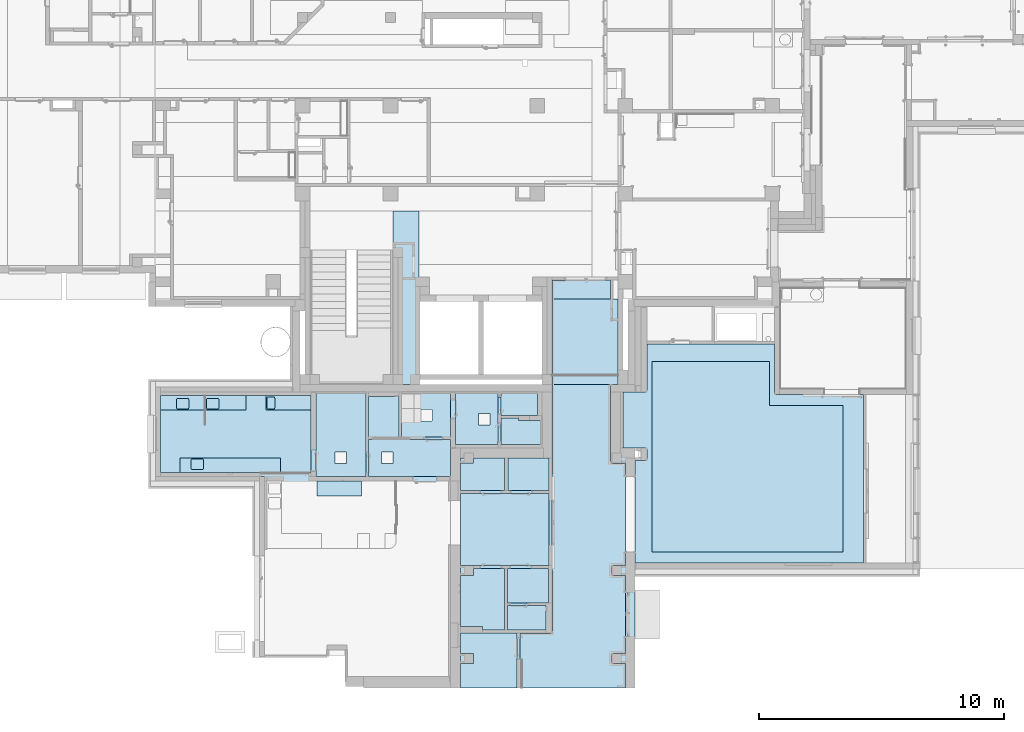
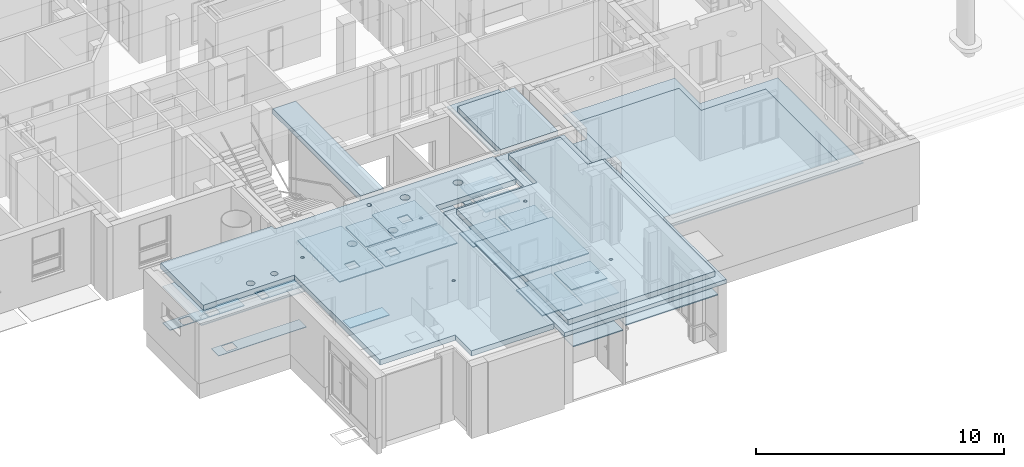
# One storey, part 8 of 140: 29 slabs, 16 openings.
"""IFC4 building model written with IfcOpenShell, lengths in metres."""

import ifcopenshell
import ifcopenshell.guid

model = None  # the IFC model being written
_history = None  # IfcOwnerHistory: only IFC2X3 demands one
_inside = {}  # id of a spatial element -> (the spatial element, [elements in it])
_under = {}  # id of a project, library or spatial element -> (it, [spatial elements below it])
_declared = {}  # id of a project -> (the project, [libraries it declares])
_typed = {}  # id of a type object -> (the type object, [elements of that type])
_made_of = {}  # id of a material, layer set ... -> (it, [elements and type objects made of it])


def new_model(schema):
    """Start an empty IFC model of exactly this schema.

    Asked for "IFC4X3", IfcOpenShell would pick the latest addendum, in which some entities
    have other attributes; the version numbers below select the first issue.
    IFC2X3 requires an IfcOwnerHistory on every rooted entity: one is made here for all.
    """
    global model, _history
    if schema == "IFC4X3":
        model = ifcopenshell.file(schema_version=(4, 3, 0, 0))
    else:
        model = ifcopenshell.file(schema=schema)
    _inside.clear()
    _under.clear()
    _declared.clear()
    _typed.clear()
    _made_of.clear()
    _history = None
    if model.schema == "IFC2X3":
        org = make("IfcOrganization", Name="unknown")
        user = make(
            "IfcPersonAndOrganization",
            ThePerson=make("IfcPerson", FamilyName="unknown"),
            TheOrganization=org,
        )
        app = make(
            "IfcApplication",
            ApplicationDeveloper=org,
            Version="unknown",
            ApplicationFullName="unknown",
            ApplicationIdentifier="unknown",
        )
        _history = make(
            "IfcOwnerHistory",
            OwningUser=user,
            OwningApplication=app,
            ChangeAction="ADDED",
            CreationDate=0,
        )
    return model


def make(cls, **values):
    """One entity of the class cls with the attributes given. An attribute that is None is left unset."""
    return model.create_entity(
        cls, **{name: value for name, value in values.items() if value is not None}
    )


def entity(cls, *values):
    """Any entity or typed value of the class cls, its attributes in the order of the schema. None: left unset."""
    e = model.create_entity(cls)
    for i, value in enumerate(values):
        if value is not None:
            e[i] = value
    return e


def rooted(cls, **values):
    """An entity with a GlobalId (a new one), such as an element, a storey or a relation."""
    return make(cls, GlobalId=ifcopenshell.guid.new(), OwnerHistory=_history, **values)


def si_unit(unit_type, name, prefix=None):
    """IfcSIUnit, for example si_unit("LENGTHUNIT", "METRE", prefix="MILLI")."""
    return make("IfcSIUnit", UnitType=unit_type, Prefix=prefix, Name=name)


def converted_unit(unit_type, name, factor, base, dimensions=None, offset=None):
    """IfcConversionBasedUnit, such as the inch: factor (a typed value) times the base unit."""
    return make(
        "IfcConversionBasedUnit"
        if offset is None
        else "IfcConversionBasedUnitWithOffset",
        ConversionOffset=offset,
        Dimensions=None
        if dimensions is None
        else entity("IfcDimensionalExponents", *dimensions),
        UnitType=unit_type,
        Name=name,
        ConversionFactor=make(
            "IfcMeasureWithUnit", ValueComponent=factor, UnitComponent=base
        ),
    )


def derived_unit(unit_type, elements):
    """IfcDerivedUnit: a product of units, each with its exponent."""
    return make(
        "IfcDerivedUnit",
        Elements=[
            make("IfcDerivedUnitElement", Unit=unit, Exponent=power)
            for unit, power in elements
        ],
        UnitType=unit_type,
    )


def assignment(units):
    """IfcUnitAssignment: the units of a project."""
    return None if units is None else make("IfcUnitAssignment", Units=units)


def point(xyz):
    """IfcCartesianPoint."""
    return None if xyz is None else make("IfcCartesianPoint", Coordinates=xyz)


def direction(xyz):
    """IfcDirection."""
    return None if xyz is None else make("IfcDirection", DirectionRatios=xyz)


def frame(location, z_axis=None, x_axis=None):
    """IfcAxis2Placement3D, a coordinate frame: its origin and axes. An axis left out is left unset."""
    return make(
        "IfcAxis2Placement3D",
        Location=point(location),
        Axis=direction(z_axis),
        RefDirection=direction(x_axis),
    )


def frame_2d(location, x_axis=None):
    """IfcAxis2Placement2D, a coordinate frame in the plane: its origin and x axis."""
    return make(
        "IfcAxis2Placement2D", Location=point(location), RefDirection=direction(x_axis)
    )


def origin():
    """The frame at (0, 0, 0) with its axes left unset."""
    return frame((0.0, 0.0, 0.0))


def origin_with_axes():
    """The frame at (0, 0, 0) with the z axis (0, 0, 1) and the x axis (1, 0, 0) written out."""
    return frame((0.0, 0.0, 0.0), z_axis=(0.0, 0.0, 1.0), x_axis=(1.0, 0.0, 0.0))


def place(relative_to, where):
    """IfcLocalPlacement: puts the frame where relative to a parent placement (None: the world)."""
    return make(
        "IfcLocalPlacement", PlacementRelTo=relative_to, RelativePlacement=where
    )


def context(
    kind, dimensions, precision=None, world=None, true_north=None, identifier=None
):
    """IfcGeometricRepresentationContext, for example the 3D "Model" context."""
    return make(
        "IfcGeometricRepresentationContext",
        ContextIdentifier=identifier,
        ContextType=kind,
        CoordinateSpaceDimension=dimensions,
        Precision=precision,
        WorldCoordinateSystem=world,
        TrueNorth=true_north,
    )


def subcontext(parent, identifier, kind, view, scale=None):
    """IfcGeometricRepresentationSubContext, for example "Body" below "Model"."""
    return make(
        "IfcGeometricRepresentationSubContext",
        ContextIdentifier=identifier,
        ContextType=kind,
        ParentContext=parent,
        TargetScale=scale,
        TargetView=view,
    )


def project(units=None, contexts=None):
    """IfcProject with its units and contexts."""
    return rooted(
        "IfcProject",
        Name="project",
        RepresentationContexts=contexts,
        UnitsInContext=assignment(units),
    )


def spatial(cls, under=None, at=None, **own):
    """A site, building, storey or space (cls), placed at a placement, below another one or the project."""
    s = rooted(cls, ObjectPlacement=at, **own)
    if under is not None:
        _under.setdefault(under.id(), (under, []))[1].append(s)
    return s


def polyline(points):
    """IfcPolyline through the points."""
    return make("IfcPolyline", Points=[point(p) for p in points])


def profile(cls, at=None, kind="AREA", **sizes):
    """A parametric profile (cls). Its sizes go by their IFC names, for example OverallWidth=200.0."""
    return make(cls, ProfileType=kind, Position=at, **sizes)


def rectangle(**sizes):
    """IfcRectangleProfileDef."""
    return profile("IfcRectangleProfileDef", **sizes)


def circle(**sizes):
    """IfcCircleProfileDef."""
    return profile("IfcCircleProfileDef", **sizes)


def outline(outer, holes=None, kind="AREA"):
    """IfcArbitraryClosedProfileDef: a profile drawn as a closed curve; with holes, ...WithVoids."""
    if holes is None:
        return make("IfcArbitraryClosedProfileDef", ProfileType=kind, OuterCurve=outer)
    return make(
        "IfcArbitraryProfileDefWithVoids",
        ProfileType=kind,
        OuterCurve=outer,
        InnerCurves=holes,
    )


def extrude(swept, where, along, depth):
    """IfcExtrudedAreaSolid: the profile swept, set in the frame where, extruded along a direction by depth."""
    return make(
        "IfcExtrudedAreaSolid",
        SweptArea=swept,
        Position=where,
        ExtrudedDirection=direction(along),
        Depth=depth,
    )


def shape(context_of_items, identifier, shape_type, items):
    """IfcShapeRepresentation: the items that make up one representation, for example the "Body"."""
    return make(
        "IfcShapeRepresentation",
        ContextOfItems=context_of_items,
        RepresentationIdentifier=identifier,
        RepresentationType=shape_type,
        Items=items,
    )


def material(Name=None, Category=None):
    """IfcMaterial."""
    return make("IfcMaterial", Name=Name, Category=Category)


def made_of(thing, what):
    """Note that an element or type object is made of a material, layer set ...; save() writes the relation."""
    if what is not None:
        _made_of.setdefault(what.id(), (what, []))[1].append(thing)
    return thing


def element(
    cls,
    number,
    at=None,
    inside=None,
    cuts=None,
    type_object=None,
    material=None,
    context=None,
    identifier="Body",
    shape_type=None,
    held_by="IfcProductDefinitionShape",
    body=None,
    shapes=None,
    **own,
):
    """One element of the class cls, such as IfcWall. Its Tag is "e" and its number.

    at: its placement. inside: the storey or other place that contains it. cuts: it is an
    opening in that element (IfcRelVoidsElement). A single representation is given by context,
    identifier, shape_type and body (its items); several are given by shapes. held_by: the class
    of the entity that holds the representations. save() writes the other relations.
    """
    e = rooted(cls, Tag="e%d" % number, ObjectPlacement=at, **own)
    if body is not None:
        shapes = [shape(context, identifier, shape_type, body)]
    if shapes is not None:
        e.Representation = make(held_by, Representations=shapes)
    if inside is not None:
        _inside.setdefault(inside.id(), (inside, []))[1].append(e)
    if cuts is not None:
        rooted(
            "IfcRelVoidsElement", RelatingBuildingElement=cuts, RelatedOpeningElement=e
        )
    if type_object is not None:
        _typed.setdefault(type_object.id(), (type_object, []))[1].append(e)
    return made_of(e, material)


def aggregate(whole, parts):
    """IfcRelAggregates: a whole, such as a stair, and the parts it consists of."""
    return rooted("IfcRelAggregates", RelatingObject=whole, RelatedObjects=parts)


def save(model, path):
    """Write the relations noted so far, then the file.

    IfcRelAggregates (storeys below a building ...), IfcRelContainedInSpatialStructure (elements
    in a storey), IfcRelDefinesByType, IfcRelAssociatesMaterial and IfcRelDeclares: one each for
    every whole, place, type object, material and project.
    """
    for whole, parts in _under.values():
        aggregate(whole, parts)
    for where, things in _inside.values():
        rooted(
            "IfcRelContainedInSpatialStructure",
            RelatedElements=things,
            RelatingStructure=where,
        )
    for kind, things in _typed.values():
        rooted("IfcRelDefinesByType", RelatedObjects=things, RelatingType=kind)
    for what, things in _made_of.values():
        rooted("IfcRelAssociatesMaterial", RelatedObjects=things, RelatingMaterial=what)
    for by, libraries in _declared.values():
        rooted("IfcRelDeclares", RelatingContext=by, RelatedDefinitions=libraries)
    model.write(path)


model = new_model("IFC4")

# Units and contexts
model_context = context("Model", 3, precision=1e-05, world=origin())
body_context = subcontext(model_context, "Body", "Model", "MODEL_VIEW")
ifc_project = project(units=[si_unit("LENGTHUNIT", "METRE"), si_unit("AREAUNIT", "SQUARE_METRE"), si_unit("VOLUMEUNIT", "CUBIC_METRE"), si_unit("MASSUNIT", "GRAM", prefix="KILO"), converted_unit("PLANEANGLEUNIT", "DEGREE", entity("IfcPlaneAngleMeasure", 0.0174532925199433), si_unit("PLANEANGLEUNIT", "RADIAN"), dimensions=[0, 0, 0, 0, 0, 0, 0]), derived_unit("THERMALTRANSMITTANCEUNIT", [(si_unit("POWERUNIT", "WATT"), 1), (si_unit("THERMODYNAMICTEMPERATUREUNIT", "KELVIN"), -1), (si_unit("LENGTHUNIT", "METRE"), -2)]), derived_unit("VOLUMETRICFLOWRATEUNIT", [(si_unit("LENGTHUNIT", "METRE"), 3), (converted_unit("TIMEUNIT", "hour", entity("IfcTimeMeasure", 3600.0), si_unit("TIMEUNIT", "SECOND"), dimensions=[0, 0, 1, 0, 0, 0, 0]), -1), (si_unit("LENGTHUNIT", "METRE"), -1)])], contexts=[model_context])

# Site, building, storey
site_placement = place(None, origin())
site = spatial("IfcSite", under=ifc_project, at=site_placement, Name="3. ASŘ", CompositionType="ELEMENT")
building_placement = place(site_placement, origin())
building = spatial("IfcBuilding", under=site, at=building_placement, Name="Pavilon C", CompositionType="ELEMENT")
storey_placement = place(building_placement, origin())
storey = spatial("IfcBuildingStorey", under=building, at=storey_placement, Name="Půdorys 1.NP", CompositionType="ELEMENT", Elevation=0.0)

# Slabs
ifc_material_1 = material(Name="VĚNEC")
slab_1_placement = place(storey_placement, frame((34.45, -4.19999999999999, 3.25)))
element("IfcSlab", 1, at=slab_1_placement, inside=storey, material=ifc_material_1, PredefinedType="FLOOR", context=body_context, shape_type="SweptSolid", body=[
    extrude(rectangle(XDim=7.09999999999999, YDim=1.07, at=frame_2d((-0.535, 3.55), x_axis=(0.0, 1.0))), frame((1.07, 0.0, 0.0), z_axis=(0.0, 0.0, 1.0), x_axis=(1.0, 0.0, 0.0)), (0.0, 0.0, 1.0), 0.25),
])
ifc_material_2 = material(Name="PZD")
slab_2_placement = place(storey_placement, frame((40.98, -4.2, 3.25)))
element("IfcSlab", 2, at=slab_2_placement, inside=storey, material=ifc_material_2, PredefinedType="FLOOR", context=body_context, shape_type="SweptSolid", body=[
    extrude(rectangle(XDim=3.5, YDim=2.67, at=frame_2d((1.335, -1.75), x_axis=(-2.07884503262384e-15, -1.0))), frame((7.27595761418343e-15, 3.5, 0.0), z_axis=(0.0, 0.0, 1.0), x_axis=(1.0, 0.0, 0.0)), (0.0, 0.0, 1.0), 0.25),
])

# Slab, openings
ifc_material_3 = material(Name="PZD")
slab_3_placement = place(storey_placement, frame((36.8, -16.6, 3.25)))
slab_3 = element("IfcSlab", 3, at=slab_3_placement, inside=storey, material=ifc_material_3, PredefinedType="FLOOR", context=body_context, shape_type="SweptSolid", body=[
    extrude(outline(polyline([(3.75, 12.1), (3.75, 9.8), (0.0, 9.8), (0.0, 0.0), (7.55, 0.0), (7.55, 9.8), (6.95, 9.8), (6.95, 12.1), (3.75, 12.1)])), origin_with_axes(), (0.0, 0.0, 1.0), 0.2),
])
opening_1_placement = place(slab_3_placement, frame((3.00007717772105, 8.42507717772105, 0.0)))
element("IfcOpeningElement", 4, at=opening_1_placement, cuts=slab_3, Name="Prostup deskou", ObjectType="Opening", context=body_context, shape_type="SweptSolid", body=[
    extrude(circle(Radius=0.0749999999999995, at=frame_2d((0.0, 9.09494701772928e-16), x_axis=(1.0, 0.0))), frame((0.0749228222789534, 0.0749228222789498, 0.0), z_axis=(0.0, 0.0, 1.0), x_axis=(1.0, 0.0, 0.0)), (0.0, 0.0, 1.0), 0.2),
])
opening_2_placement = place(slab_3_placement, frame((3.94916621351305, 3.15083191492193, 0.0)))
element("IfcOpeningElement", 5, at=opening_2_placement, cuts=slab_3, Name="Prostup deskou", ObjectType="Opening", context=body_context, shape_type="SweptSolid", body=[
    extrude(circle(Radius=0.0749999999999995, at=frame_2d((7.27595761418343e-15, -7.27595761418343e-15), x_axis=(1.0, 0.0))), frame((0.0749228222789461, 0.0749228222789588, 0.0), z_axis=(0.0, 0.0, 1.0), x_axis=(1.0, 0.0, 0.0)), (0.0, 0.0, 1.0), 0.2),
])
opening_3_placement = place(slab_3_placement, frame((3.00007717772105, 2.62583191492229, 0.0)))
element("IfcOpeningElement", 6, at=opening_3_placement, cuts=slab_3, Name="Prostup deskou", ObjectType="Opening", context=body_context, shape_type="SweptSolid", body=[
    extrude(circle(Radius=0.0749999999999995, at=frame_2d((0.0, -1.2732925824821e-14), x_axis=(1.0, 0.0))), frame((0.0749228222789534, 0.0749228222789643, 0.0), z_axis=(0.0, 0.0, 1.0), x_axis=(1.0, 0.0, 0.0)), (0.0, 0.0, 1.0), 0.2),
])

# Slabs
ifc_material_4 = material(Name="Kuchyňská deska")
slab_4_placement = place(storey_placement, frame((31.335158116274, -8.74999998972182, 0.82)))
element("IfcSlab", 7, at=slab_4_placement, inside=storey, material=ifc_material_4, PredefinedType="FLOOR", context=body_context, shape_type="SweptSolid", body=[
    extrude(rectangle(XDim=0.6, YDim=1.836, at=frame_2d((0.918, -0.3), x_axis=(0.0, -1.0))), frame((0.0, 0.6, 0.0), z_axis=(0.0, 0.0, 1.0), x_axis=(1.0, 0.0, 0.0)), (0.0, 0.0, 1.0), 0.03),
])
ifc_material_5 = material(Name="Kuchyňská deska")
slab_5_placement = place(storey_placement, frame((25.75, -7.80000000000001, 0.82)))
element("IfcSlab", 8, at=slab_5_placement, inside=storey, material=ifc_material_5, PredefinedType="FLOOR", context=body_context, shape_type="SweptSolid", body=[
    extrude(outline(polyline([(0.0, 0.599999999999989), (0.0, 0.0), (4.09999999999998, 0.0), (4.09999999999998, 0.599999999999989), (0.0, 0.599999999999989)]), holes=[polyline([(0.954240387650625, 0.508682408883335), (0.955000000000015, 0.499999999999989), (0.955000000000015, 0.169999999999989), (0.954240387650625, 0.161317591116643), (0.951984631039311, 0.152898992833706), (0.948301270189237, 0.144999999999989), (0.943302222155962, 0.137860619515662), (0.937139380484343, 0.13169777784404), (0.930000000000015, 0.126698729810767), (0.922101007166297, 0.123015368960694), (0.91368240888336, 0.120759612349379), (0.905000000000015, 0.119999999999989), (0.495000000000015, 0.119999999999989), (0.486317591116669, 0.120759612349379), (0.477898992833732, 0.123015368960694), (0.470000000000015, 0.126698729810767), (0.462860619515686, 0.13169777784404), (0.456697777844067, 0.137860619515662), (0.451698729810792, 0.144999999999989), (0.448015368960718, 0.152898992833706), (0.445759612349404, 0.161317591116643), (0.445000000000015, 0.169999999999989), (0.445000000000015, 0.499999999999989), (0.445759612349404, 0.508682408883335), (0.448015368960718, 0.517101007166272), (0.451698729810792, 0.524999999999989), (0.456697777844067, 0.532139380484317), (0.462860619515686, 0.538302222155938), (0.470000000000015, 0.543301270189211), (0.477898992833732, 0.546984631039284), (0.486317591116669, 0.5492403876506), (0.495000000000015, 0.549999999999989), (0.905000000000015, 0.549999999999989), (0.91368240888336, 0.5492403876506), (0.922101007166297, 0.546984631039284), (0.930000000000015, 0.543301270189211), (0.937139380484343, 0.538302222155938), (0.943302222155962, 0.532139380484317), (0.948301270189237, 0.524999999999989), (0.951984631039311, 0.517101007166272), (0.954240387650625, 0.508682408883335)])]), origin_with_axes(), (0.0, 0.0, 1.0), 0.03),
])
ifc_material_6 = material(Name="Kuchyňská deska")
slab_6_placement = place(storey_placement, frame((24.95, -5.24999999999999, 0.82)))
element("IfcSlab", 9, at=slab_6_placement, inside=storey, material=ifc_material_6, PredefinedType="FLOOR", context=body_context, shape_type="SweptSolid", body=[
    extrude(outline(polyline([(1.8, 0.599999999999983), (0.0, 0.600000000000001), (0.0, 0.0), (1.8, 0.0), (1.8, 0.599999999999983)]), holes=[polyline([(0.669999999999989, 0.473301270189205), (0.677898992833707, 0.476984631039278), (0.686317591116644, 0.479240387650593), (0.694999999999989, 0.479999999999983), (1.10499999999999, 0.479999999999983), (1.11368240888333, 0.479240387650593), (1.12210100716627, 0.476984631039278), (1.12999999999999, 0.473301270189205), (1.13713938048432, 0.468302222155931), (1.14330222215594, 0.46213938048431), (1.14830127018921, 0.454999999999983), (1.15198463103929, 0.447101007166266), (1.1542403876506, 0.438682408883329), (1.15499999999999, 0.429999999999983), (1.15499999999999, 0.0999999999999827), (1.1542403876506, 0.0913175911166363), (1.15198463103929, 0.0828989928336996), (1.14830127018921, 0.0749999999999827), (1.14330222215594, 0.0678606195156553), (1.13713938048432, 0.0616977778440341), (1.12999999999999, 0.0566987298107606), (1.12210100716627, 0.0530153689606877), (1.11368240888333, 0.0507596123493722), (1.10499999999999, 0.0499999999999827), (0.694999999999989, 0.0499999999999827), (0.686317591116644, 0.0507596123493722), (0.677898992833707, 0.0530153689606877), (0.669999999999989, 0.0566987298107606), (0.662860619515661, 0.0616977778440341), (0.656697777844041, 0.0678606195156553), (0.651698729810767, 0.0749999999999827), (0.648015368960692, 0.0828989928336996), (0.645759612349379, 0.0913175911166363), (0.644999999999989, 0.0999999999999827), (0.644999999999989, 0.429999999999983), (0.645759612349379, 0.438682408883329), (0.648015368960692, 0.447101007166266), (0.651698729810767, 0.454999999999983), (0.656697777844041, 0.46213938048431), (0.662860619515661, 0.468302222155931), (0.669999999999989, 0.473301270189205)])]), origin_with_axes(), (0.0, 0.0, 1.0), 0.03),
])
ifc_material_7 = material(Name="Kuchyňská deska")
slab_7_placement = place(storey_placement, frame((26.782, -5.24999999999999, 0.82)))
element("IfcSlab", 10, at=slab_7_placement, inside=storey, material=ifc_material_7, PredefinedType="FLOOR", context=body_context, shape_type="SweptSolid", body=[
    extrude(outline(polyline([(0.0, 0.0), (1.65, 4.72937244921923e-14), (1.65, 0.600000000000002), (0.0, 0.599999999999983), (0.0, 0.0)]), holes=[polyline([(0.543302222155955, 0.462139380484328), (0.548301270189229, 0.455000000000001), (0.551984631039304, 0.447101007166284), (0.554240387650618, 0.438682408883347), (0.555000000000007, 0.430000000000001), (0.555000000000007, 0.100000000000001), (0.554240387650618, 0.0913175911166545), (0.551984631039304, 0.0828989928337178), (0.548301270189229, 0.0750000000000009), (0.543302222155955, 0.0678606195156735), (0.537139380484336, 0.0616977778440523), (0.530000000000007, 0.0566987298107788), (0.522101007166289, 0.0530153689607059), (0.513682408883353, 0.0507596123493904), (0.505000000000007, 0.0500000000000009), (0.0950000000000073, 0.0500000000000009), (0.0863175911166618, 0.0507596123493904), (0.0778989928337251, 0.0530153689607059), (0.0700000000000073, 0.0566987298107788), (0.062860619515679, 0.0616977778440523), (0.0566977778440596, 0.0678606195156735), (0.0516987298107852, 0.0750000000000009), (0.0480153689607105, 0.0828989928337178), (0.0457596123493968, 0.0913175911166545), (0.0450000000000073, 0.100000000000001), (0.0450000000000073, 0.430000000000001), (0.0457596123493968, 0.438682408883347), (0.0480153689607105, 0.447101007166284), (0.0516987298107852, 0.455000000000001), (0.0566977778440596, 0.462139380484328), (0.062860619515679, 0.46830222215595), (0.0700000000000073, 0.473301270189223), (0.0778989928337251, 0.476984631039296), (0.0863175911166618, 0.479240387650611), (0.0950000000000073, 0.480000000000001), (0.505000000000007, 0.480000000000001), (0.513682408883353, 0.479240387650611), (0.522101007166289, 0.476984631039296), (0.530000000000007, 0.473301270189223), (0.537139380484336, 0.46830222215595), (0.543302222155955, 0.462139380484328)])]), origin_with_axes(), (0.0, 0.0, 1.0), 0.03),
])
ifc_material_8 = material(Name="Kuchyňská deska")
slab_8_placement = place(storey_placement, frame((29.25, -5.25000000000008, 0.82)))
element("IfcSlab", 11, at=slab_8_placement, inside=storey, material=ifc_material_8, PredefinedType="FLOOR", context=body_context, shape_type="SweptSolid", body=[
    extrude(outline(polyline([(0.0, 0.6), (0.0, 0.0), (1.85, 0.0), (1.85, 0.6), (0.0, 0.6)]), holes=[polyline([(0.0484999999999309, 0.487709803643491), (0.0489236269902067, 0.495531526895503), (0.0501840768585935, 0.503160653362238), (0.0522503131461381, 0.510409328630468), (0.0550714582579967, 0.517099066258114), (0.0585780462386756, 0.523065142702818), (0.0626837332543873, 0.528160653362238), (0.0672874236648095, 0.532260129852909), (0.0722757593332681, 0.535262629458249), (0.0775259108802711, 0.537094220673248), (0.0829086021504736, 0.537709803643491), (0.334091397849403, 0.537709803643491), (0.340066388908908, 0.536950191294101), (0.345859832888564, 0.534694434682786), (0.35129569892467, 0.531011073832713), (0.356208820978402, 0.52601202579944), (0.360449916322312, 0.519849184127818), (0.363890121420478, 0.512709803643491), (0.366424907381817, 0.504810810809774), (0.367977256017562, 0.496392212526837), (0.368499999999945, 0.487709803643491), (0.368499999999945, 0.102709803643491), (0.367977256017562, 0.0940273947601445), (0.366424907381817, 0.0856087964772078), (0.363890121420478, 0.0777098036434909), (0.360449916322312, 0.0705704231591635), (0.356208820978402, 0.0644075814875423), (0.35129569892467, 0.0594085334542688), (0.345859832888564, 0.0557251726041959), (0.340066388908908, 0.0534694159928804), (0.334091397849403, 0.0527098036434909), (0.0829086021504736, 0.0527098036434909), (0.0769336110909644, 0.0534694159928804), (0.071140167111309, 0.0557251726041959), (0.0657043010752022, 0.0594085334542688), (0.0607911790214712, 0.0644075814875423), (0.0565500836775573, 0.0705704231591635), (0.0531098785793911, 0.0777098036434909), (0.0505750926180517, 0.0856087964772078), (0.0490227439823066, 0.0940273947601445), (0.0484999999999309, 0.102709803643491), (0.0484999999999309, 0.487709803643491)])]), origin_with_axes(), (0.0, 0.0, 1.0), 0.03),
])

# Slab, openings
ifc_material_9 = material(Name="PIR")
slab_9_placement = place(storey_placement, frame((24.95, -16.145, 3.45)))
slab_9 = element("IfcSlab", 12, at=slab_9_placement, inside=storey, material=ifc_material_9, PredefinedType="FLOOR", context=body_context, shape_type="SweptSolid", body=[
    extrude(outline(polyline([(0.0, 11.645), (0.0, 8.19500000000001), (4.25, 8.19500000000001), (4.25, 1.30000000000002), (7.77, 1.30000000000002), (7.77, 0.0), (11.63, 5.45696821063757e-15), (11.63, 9.56500000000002), (15.38, 9.56500000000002), (15.38, 11.425), (5.18, 11.425), (5.18, 11.645), (0.0, 11.645)])), origin_with_axes(), (0.0, 0.0, 1.0), 0.26),
])
opening_4_placement = place(slab_9_placement, frame((7.17520580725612, 8.74520580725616, 0.0)))
element("IfcOpeningElement", 13, at=opening_4_placement, cuts=slab_9, Name="Prostup deskou", ObjectType="Opening", context=body_context, shape_type="SweptSolid", body=[
    extrude(circle(Radius=0.2, at=frame_2d((7.27595761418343e-15, 9.09494701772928e-16), x_axis=(1.0, 0.0))), frame((0.199794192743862, 0.199794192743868, 0.0), z_axis=(0.0, 0.0, 1.0), x_axis=(1.0, 0.0, 0.0)), (0.0, 0.0, 1.0), 0.26),
])
opening_5_placement = place(slab_9_placement, frame((9.07520580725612, 8.74520580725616, 0.0)))
element("IfcOpeningElement", 14, at=opening_5_placement, cuts=slab_9, Name="Prostup deskou", ObjectType="Opening", context=body_context, shape_type="SweptSolid", body=[
    extrude(circle(Radius=0.2, at=frame_2d((0.0, 3.63797880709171e-15), x_axis=(1.0, 0.0))), frame((0.199794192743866, 0.199794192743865, 0.0), z_axis=(0.0, 0.0, 1.0), x_axis=(1.0, 0.0, 0.0)), (0.0, 0.0, 1.0), 0.26),
])
opening_6_placement = place(slab_9_placement, frame((10.6502058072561, 10.4952058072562, 0.0)))
element("IfcOpeningElement", 15, at=opening_6_placement, cuts=slab_9, Name="Prostup deskou", ObjectType="Opening", context=body_context, shape_type="SweptSolid", body=[
    extrude(circle(Radius=0.2, at=frame_2d((0.0, 2.72848410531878e-15), x_axis=(1.0, 0.0))), frame((0.199794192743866, 0.199794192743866, 0.0), z_axis=(0.0, 0.0, 1.0), x_axis=(1.0, 0.0, 0.0)), (0.0, 0.0, 1.0), 0.26),
])
opening_7_placement = place(slab_9_placement, frame((13.025205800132, 10.3327058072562, 0.0)))
element("IfcOpeningElement", 16, at=opening_7_placement, cuts=slab_9, Name="Prostup deskou", ObjectType="Opening", context=body_context, shape_type="SweptSolid", body=[
    extrude(circle(Radius=0.2, at=frame_2d((0.0, -3.63797880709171e-15), x_axis=(1.0, 0.0))), frame((0.199794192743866, 0.199794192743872, 0.0), z_axis=(0.0, 0.0, 1.0), x_axis=(1.0, 0.0, 0.0)), (0.0, 0.0, 1.0), 0.26),
])
opening_8_placement = place(slab_9_placement, frame((10.605077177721, 9.04007540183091, 0.0)))
element("IfcOpeningElement", 17, at=opening_8_placement, cuts=slab_9, Name="Prostup deskou", ObjectType="Opening", context=body_context, shape_type="SweptSolid", body=[
    extrude(circle(Radius=0.0749999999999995, at=frame_2d((1.45519152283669e-14, -4.54747350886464e-15), x_axis=(1.0, 0.0))), frame((0.0749228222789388, 0.0749228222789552, 0.0), z_axis=(0.0, 0.0, 1.0), x_axis=(1.0, 0.0, 0.0)), (0.0, 0.0, 1.0), 0.26),
])
opening_9_placement = place(slab_9_placement, frame((5.08227275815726, 9.04007540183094, 0.0)))
element("IfcOpeningElement", 18, at=opening_9_placement, cuts=slab_9, Name="Prostup deskou", ObjectType="Opening", context=body_context, shape_type="SweptSolid", body=[
    extrude(circle(Radius=0.0749999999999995, at=frame_2d((1.09139364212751e-14, 2.72848410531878e-15), x_axis=(1.0, 0.0))), frame((0.0749228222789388, 0.0749228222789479, 0.0), z_axis=(0.0, 0.0, 1.0), x_axis=(1.0, 0.0, 0.0)), (0.0, 0.0, 1.0), 0.26),
])
opening_10_placement = place(slab_9_placement, frame((9.55126002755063, 4.57108813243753, 0.0)))
element("IfcOpeningElement", 19, at=opening_10_placement, cuts=slab_9, Name="Prostup deskou", ObjectType="Opening", context=body_context, shape_type="SweptSolid", body=[
    extrude(circle(Radius=0.0749999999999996, at=frame_2d((-1.45519152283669e-14, -3.63797880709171e-15), x_axis=(1.0, 0.0))), frame((0.0749228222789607, 0.0749228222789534, 0.0), z_axis=(0.0, 0.0, 1.0), x_axis=(1.0, 0.0, 0.0)), (0.0, 0.0, 1.0), 0.26),
])
opening_11_placement = place(slab_9_placement, frame((9.23502148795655, 10.8651029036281, 4.54747350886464e-16)))
element("IfcOpeningElement", 20, at=opening_11_placement, cuts=slab_9, Name="Prostup deskou", ObjectType="Opening", context=body_context, shape_type="SweptSolid", body=[
    extrude(circle(Radius=0.0999999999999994, at=frame_2d((7.27595761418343e-15, 1.81898940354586e-15), x_axis=(1.0, 0.0))), frame((0.0998970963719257, 0.099897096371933, -4.54747350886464e-16), z_axis=(0.0, 0.0, 1.0), x_axis=(1.0, 0.0, 0.0)), (0.0, 0.0, 1.0), 0.26),
])
opening_12_placement = place(slab_9_placement, frame((2.2593185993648, 8.41018008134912, 4.54747350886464e-16)))
element("IfcOpeningElement", 21, at=opening_12_placement, cuts=slab_9, Name="Prostup deskou", ObjectType="Opening", context=body_context, shape_type="SweptSolid", body=[
    extrude(circle(Radius=0.175, at=frame_2d((0.0, -9.09494701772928e-16), x_axis=(1.0, 0.0))), frame((0.174819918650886, 0.174819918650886, -4.54747350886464e-16), z_axis=(0.0, 0.0, 1.0), x_axis=(1.0, 0.0, 0.0)), (0.0, 0.0, 1.0), 0.26),
])
opening_13_placement = place(slab_9_placement, frame((3.45015435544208, 8.5451543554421, 0.0)))
element("IfcOpeningElement", 22, at=opening_13_placement, cuts=slab_9, Name="Prostup deskou", ObjectType="Opening", context=body_context, shape_type="SweptSolid", body=[
    extrude(circle(Radius=0.15, at=frame_2d((-3.63797880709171e-15, 0.0), x_axis=(1.0, 0.0))), frame((0.149845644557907, 0.149845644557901, 0.0), z_axis=(0.0, 0.0, 1.0), x_axis=(1.0, 0.0, 0.0)), (0.0, 0.0, 1.0), 0.26),
])

ifc_material_10 = material(Name="PIR")
slab_10_placement = place(storey_placement, frame((37.2, -16.2, 3.45)))
slab_10 = element("IfcSlab", 23, at=slab_10_placement, inside=storey, material=ifc_material_10, PredefinedType="FLOOR", context=body_context, shape_type="SweptSolid", body=[
    extrude(outline(polyline([(0.0, 0.0), (6.85, 0.0), (6.85, 9.10000000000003), (6.15, 9.10000000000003), (6.15, 11.3), (3.75, 11.3), (3.75, 9.00000000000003), (0.0, 9.00000000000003), (0.0, 0.0)])), origin_with_axes(), (0.0, 0.0, 1.0), 0.26),
])
opening_14_placement = place(slab_10_placement, frame((2.60007717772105, 2.22583191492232, 0.0)))
element("IfcOpeningElement", 24, at=opening_14_placement, cuts=slab_10, Name="Prostup deskou", ObjectType="Opening", context=body_context, shape_type="SweptSolid", body=[
    extrude(circle(Radius=0.0749999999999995, at=frame_2d((0.0, -1.2732925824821e-14), x_axis=(1.0, 0.0))), frame((0.0749228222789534, 0.0749228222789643, 0.0), z_axis=(0.0, 0.0, 1.0), x_axis=(1.0, 0.0, 0.0)), (0.0, 0.0, 1.0), 0.26),
])
opening_15_placement = place(slab_10_placement, frame((3.54916621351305, 2.75083191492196, 0.0)))
element("IfcOpeningElement", 25, at=opening_15_placement, cuts=slab_10, Name="Prostup deskou", ObjectType="Opening", context=body_context, shape_type="SweptSolid", body=[
    extrude(circle(Radius=0.0749999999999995, at=frame_2d((7.27595761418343e-15, -7.27595761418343e-15), x_axis=(1.0, 0.0))), frame((0.0749228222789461, 0.0749228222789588, 0.0), z_axis=(0.0, 0.0, 1.0), x_axis=(1.0, 0.0, 0.0)), (0.0, 0.0, 1.0), 0.26),
])
opening_16_placement = place(slab_10_placement, frame((2.60007717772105, 8.02507717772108, 0.0)))
element("IfcOpeningElement", 26, at=opening_16_placement, cuts=slab_10, Name="Prostup deskou", ObjectType="Opening", context=body_context, shape_type="SweptSolid", body=[
    extrude(circle(Radius=0.0749999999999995, at=frame_2d((0.0, 9.09494701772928e-16), x_axis=(1.0, 0.0))), frame((0.0749228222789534, 0.0749228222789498, 0.0), z_axis=(0.0, 0.0, 1.0), x_axis=(1.0, 0.0, 0.0)), (0.0, 0.0, 1.0), 0.26),
])

# Slabs
ifc_material_11 = material(Name="Kazetový podhled bílý 0,6×0,6")
slab_11_placement = place(storey_placement, frame((39.65, -16.6, 2.8)))
element("IfcSlab", 27, at=slab_11_placement, inside=storey, material=ifc_material_11, PredefinedType="FLOOR", context=body_context, shape_type="SweptSolid", body=[
    extrude(outline(polyline([(3.99999999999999, 12.8), (1.3, 12.8), (1.3, 2.24999999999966), (0.0, 2.24999999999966), (0.0, 0.0), (4.3, 0.0), (4.3, 0.999999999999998), (3.75, 0.999999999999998), (3.75, 1.4), (4.3, 1.4), (4.3, 4.6), (3.75, 4.6), (3.75, 5.0), (4.3, 5.0), (4.3, 9.2), (3.7, 9.2), (3.7, 12.4), (3.99999999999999, 12.4), (3.99999999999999, 12.8)])), origin_with_axes(), (0.0, 0.0, 1.0), 0.05),
])
ifc_material_12 = material(Name="Kazetový podhled bílý 0,6×0,6")
slab_12_placement = place(storey_placement, frame((24.95, -7.80000000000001, 2.6)))
element("IfcSlab", 28, at=slab_12_placement, inside=storey, material=ifc_material_12, PredefinedType="FLOOR", context=body_context, shape_type="SweptSolid", body=[
    extrude(rectangle(XDim=6.14999999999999, YDim=3.14999999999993, at=frame_2d((3.075, 1.57499999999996), x_axis=(1.0, 0.0))), origin_with_axes(), (0.0, 0.0, 1.0), 0.05),
])
ifc_material_13 = material(Name="Kazetový podhled bílý 0,6×0,6")
slab_13_placement = place(storey_placement, frame((31.3, -7.94999999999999, 2.6)))
element("IfcSlab", 29, at=slab_13_placement, inside=storey, material=ifc_material_13, PredefinedType="FLOOR", context=body_context, shape_type="SweptSolid", body=[
    extrude(outline(polyline([(0.0, 3.3749999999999), (0.0, 0.0), (2.05000000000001, 0.0), (2.05000000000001, 3.3749999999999), (0.0, 3.3749999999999)]), holes=[polyline([(0.790000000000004, 0.514999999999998), (0.790000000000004, 0.984999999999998), (1.26, 0.984999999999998), (1.26, 0.514999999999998), (0.790000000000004, 0.514999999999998)])]), origin_with_axes(), (0.0, 0.0, 1.0), 0.05),
])
ifc_material_14 = material(Name="Kazetový podhled bílý 0,6×0,6")
slab_14_placement = place(storey_placement, frame((33.45, -7.95, 2.6)))
element("IfcSlab", 30, at=slab_14_placement, inside=storey, material=ifc_material_14, PredefinedType="FLOOR", context=body_context, shape_type="SweptSolid", body=[
    extrude(outline(polyline([(0.0, 1.5), (0.0, 0.0), (3.35, 0.0), (3.35, 1.5), (0.0, 1.5)]), holes=[polyline([(0.54, 0.515), (0.54, 0.985), (1.01, 0.985), (1.01, 0.515), (0.54, 0.515)])]), origin_with_axes(), (0.0, 0.0, 1.0), 0.05),
])
ifc_material_15 = material(Name="Kazetový podhled bílý 0,6×0,6")
slab_15_placement = place(storey_placement, frame((34.8, -6.35, 2.6)))
element("IfcSlab", 31, at=slab_15_placement, inside=storey, material=ifc_material_15, PredefinedType="FLOOR", context=body_context, shape_type="SweptSolid", body=[
    extrude(outline(polyline([(2.0, 1.85), (0.0, 1.85), (0.0, 0.0), (2.0, 0.0), (2.0, 1.85)]), holes=[polyline([(1.235, 0.665000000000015), (0.765, 0.665000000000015), (0.765, 1.13500000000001), (1.235, 1.13500000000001), (1.235, 0.665000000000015)])]), origin_with_axes(), (0.0, 0.0, 1.0), 0.05),
])
ifc_material_16 = material(Name="Kazetový podhled bílý 0,6×0,6")
slab_16_placement = place(storey_placement, frame((33.45, -6.35, 2.6)))
element("IfcSlab", 32, at=slab_16_placement, inside=storey, material=ifc_material_16, PredefinedType="FLOOR", context=body_context, shape_type="SweptSolid", body=[
    extrude(rectangle(XDim=1.25, YDim=1.65000000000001, at=frame_2d((-0.625, -0.825000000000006), x_axis=(-1.0, 0.0))), frame((1.25, 1.65000000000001, 0.0), z_axis=(0.0, 0.0, 1.0), x_axis=(1.0, 0.0, 0.0)), (0.0, 0.0, 1.0), 0.05),
])
ifc_material_17 = material(Name="Kazetový podhled bílý 0,6×0,6")
slab_17_placement = place(storey_placement, frame((38.875, -5.475, 2.6)))
element("IfcSlab", 33, at=slab_17_placement, inside=storey, material=ifc_material_17, PredefinedType="FLOOR", context=body_context, shape_type="SweptSolid", body=[
    extrude(rectangle(XDim=1.47500000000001, YDim=0.9, at=frame_2d((-0.737500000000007, -0.45), x_axis=(-1.0, 0.0))), frame((1.47500000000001, 0.9, 0.0), z_axis=(0.0, 0.0, 1.0), x_axis=(1.0, 0.0, 0.0)), (0.0, 0.0, 1.0), 0.05),
])
ifc_material_18 = material(Name="Kazetový podhled bílý 0,6×0,6")
slab_18_placement = place(storey_placement, frame((39.15, -8.525, 2.6)))
element("IfcSlab", 34, at=slab_18_placement, inside=storey, material=ifc_material_18, PredefinedType="FLOOR", context=body_context, shape_type="SweptSolid", body=[
    extrude(rectangle(XDim=1.67499999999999, YDim=1.325, at=frame_2d((-0.8375, -0.662499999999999), x_axis=(-1.0, 0.0))), frame((1.67499999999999, 1.325, 0.0), z_axis=(0.0, 0.0, 1.0), x_axis=(1.0, 0.0, 0.0)), (0.0, 0.0, 1.0), 0.05),
])
ifc_material_19 = material(Name="Kazetový podhled bílý 0,6×0,6")
slab_19_placement = place(storey_placement, frame((37.2, -8.525, 2.6)))
element("IfcSlab", 35, at=slab_19_placement, inside=storey, material=ifc_material_19, PredefinedType="FLOOR", context=body_context, shape_type="SweptSolid", body=[
    extrude(outline(polyline([(1.80000000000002, 1.325), (0.55, 1.325), (0.55, 1.125), (0.0, 1.125), (0.0, 0.0), (1.80000000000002, 0.0), (1.80000000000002, 1.325)])), origin_with_axes(), (0.0, 0.0, 1.0), 0.05),
])
ifc_material_20 = material(Name="Kazetový podhled bílý 0,6×0,6")
slab_20_placement = place(storey_placement, frame((37.0, -6.65, 2.6)))
element("IfcSlab", 36, at=slab_20_placement, inside=storey, material=ifc_material_20, PredefinedType="FLOOR", context=body_context, shape_type="SweptSolid", body=[
    extrude(outline(polyline([(1.75, 0.0), (1.75, 2.075), (0.0, 2.075), (0.0, 0.0), (1.75, 0.0)]), holes=[polyline([(0.93999999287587, 0.802500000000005), (0.93999999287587, 1.27250000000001), (1.40999999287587, 1.27250000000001), (1.40999999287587, 0.802500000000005), (0.93999999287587, 0.802500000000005)])]), origin_with_axes(), (0.0, 0.0, 1.0), 0.05),
])
ifc_material_21 = material(Name="Kazetový podhled bílý 0,6×0,6")
slab_21_placement = place(storey_placement, frame((37.2, -16.6, 2.6)))
element("IfcSlab", 37, at=slab_21_placement, inside=storey, material=ifc_material_21, PredefinedType="FLOOR", context=body_context, shape_type="SweptSolid", body=[
    extrude(outline(polyline([(0.0, 0.0), (2.325, 0.0), (2.325, 2.24999999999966), (0.0, 2.24999999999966), (0.0, 1.4), (0.55, 1.4), (0.55, 0.999999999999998), (0.0, 0.999999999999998), (0.0, 0.0)])), origin_with_axes(), (0.0, 0.0, 1.0), 0.05),
])
ifc_material_22 = material(Name="Kazetový podhled bílý 0,6×0,6")
slab_22_placement = place(storey_placement, frame((45.04, -11.05, 2.8)))
element("IfcSlab", 38, at=slab_22_placement, inside=storey, material=ifc_material_22, PredefinedType="FLOOR", context=body_context, shape_type="SweptSolid", body=[
    extrude(outline(polyline([(4.8, 7.8), (0.0, 7.8), (0.0, 0.0), (7.8, 0.0), (7.8, 6.0), (4.8, 6.0), (4.8, 7.8)])), origin_with_axes(), (0.0, 0.0, 1.0), 0.05),
])
ifc_material_23 = material(Name="SDK hladký bílý")
slab_23_placement = place(storey_placement, frame((43.85, -11.5, 2.8)))
element("IfcSlab", 39, at=slab_23_placement, inside=storey, material=ifc_material_23, PredefinedType="FLOOR", context=body_context, shape_type="SweptSolid", body=[
    extrude(outline(polyline([(9.82999999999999, 0.0), (9.82999999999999, 6.9), (6.2, 6.90000000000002), (6.2, 8.95999999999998), (0.98, 8.95999999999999), (0.98, 7.00000000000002), (0.0, 7.00000000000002), (0.0, 4.70000000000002), (0.98, 4.70000000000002), (0.98, 4.20000000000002), (0.5, 4.20000000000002), (0.499999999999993, 1.2732925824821e-14), (9.82999999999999, 0.0)]), holes=[polyline([(1.19, 8.25), (5.99, 8.25), (5.99, 6.45), (8.99, 6.45), (8.99, 0.450000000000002), (1.19, 0.450000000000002), (1.19, 8.25)])]), origin_with_axes(), (0.0, 0.0, 1.0), 0.05),
])
ifc_material_24 = material(Name="SDK hladký bílý")
slab_24_placement = place(storey_placement, frame((37.2, -11.6, 2.9)))
element("IfcSlab", 40, at=slab_24_placement, inside=storey, material=ifc_material_24, PredefinedType="FLOOR", context=body_context, shape_type="SweptSolid", body=[
    extrude(rectangle(XDim=2.95000000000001, YDim=3.625, at=frame_2d((1.8125, -1.475), x_axis=(0.0, -1.0))), frame((0.0, 2.95000000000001, 0.0), z_axis=(0.0, 0.0, 1.0), x_axis=(1.0, 0.0, 0.0)), (0.0, 0.0, 1.0), 0.05),
])
ifc_material_25 = material(Name="Kazetový podhled bílý 0,6×0,6")
slab_25_placement = place(storey_placement, frame((40.95, -3.8, 3.0)))
element("IfcSlab", 41, at=slab_25_placement, inside=storey, material=ifc_material_25, PredefinedType="FLOOR", context=body_context, shape_type="SweptSolid", body=[
    extrude(outline(polyline([(2.4, 2.19999999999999), (2.4, 3.87499999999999), (0.0, 3.87499999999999), (0.0, 0.0), (2.69999999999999, 0.0), (2.69999999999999, 2.19999999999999), (2.4, 2.19999999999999)])), origin_with_axes(), (0.0, 0.0, 1.0), 0.05),
])
ifc_material_26 = material(Name="SDK hladký bílý")
slab_26_placement = place(storey_placement, frame((39.125, -14.2250000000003, 2.6)))
element("IfcSlab", 42, at=slab_26_placement, inside=storey, material=ifc_material_26, PredefinedType="FLOOR", context=body_context, shape_type="SweptSolid", body=[
    extrude(rectangle(XDim=1.00000000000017, YDim=1.57499999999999, at=frame_2d((0.787499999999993, -0.500000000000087), x_axis=(0.0, -1.0))), frame((0.0, 1.00000000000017, 0.0), z_axis=(0.0, 0.0, 1.0), x_axis=(1.0, 0.0, 0.0)), (0.0, 0.0, 1.0), 0.05),
])
ifc_material_27 = material(Name="SDK hladký bílý")
slab_27_placement = place(storey_placement, frame((39.125, -13.125, 2.6)))
element("IfcSlab", 43, at=slab_27_placement, inside=storey, material=ifc_material_27, PredefinedType="FLOOR", context=body_context, shape_type="SweptSolid", body=[
    extrude(rectangle(XDim=1.40000000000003, YDim=1.67499999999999, at=frame_2d((0.837499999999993, -0.700000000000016), x_axis=(0.0, -1.0))), frame((0.0, 1.40000000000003, 0.0), z_axis=(0.0, 0.0, 1.0), x_axis=(1.0, 0.0, 0.0)), (0.0, 0.0, 1.0), 0.05),
])
ifc_material_28 = material(Name="SDK hladký bílý")
slab_28_placement = place(storey_placement, frame((37.2, -14.2250000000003, 2.6)))
element("IfcSlab", 44, at=slab_28_placement, inside=storey, material=ifc_material_28, PredefinedType="FLOOR", context=body_context, shape_type="SweptSolid", body=[
    extrude(outline(polyline([(0.55, 2.50000000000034), (0.55, 2.22500000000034), (0.0, 2.22500000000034), (0.0, 0.125), (0.9, 0.125), (0.9, 0.0), (1.80000000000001, 0.0), (1.80000000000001, 2.50000000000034), (0.55, 2.50000000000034)])), origin_with_axes(), (0.0, 0.0, 1.0), 0.05),
])
ifc_material_29 = material(Name="Kazet. podhled do vlhka 0,6×0,6")
slab_29_placement = place(storey_placement, frame((38.875, -6.65, 2.6)))
element("IfcSlab", 45, at=slab_29_placement, inside=storey, material=ifc_material_29, PredefinedType="FLOOR", context=body_context, shape_type="SweptSolid", body=[
    extrude(outline(polyline([(0.0, 1.075), (0.0, 0.0), (1.60000000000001, 0.0), (1.60000000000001, 0.974999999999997), (0.699997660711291, 0.974999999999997), (0.699997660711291, 1.075), (0.0, 1.075)])), origin_with_axes(), (0.0, 0.0, 1.0), 0.05),
])

save(model, "model.ifc")
